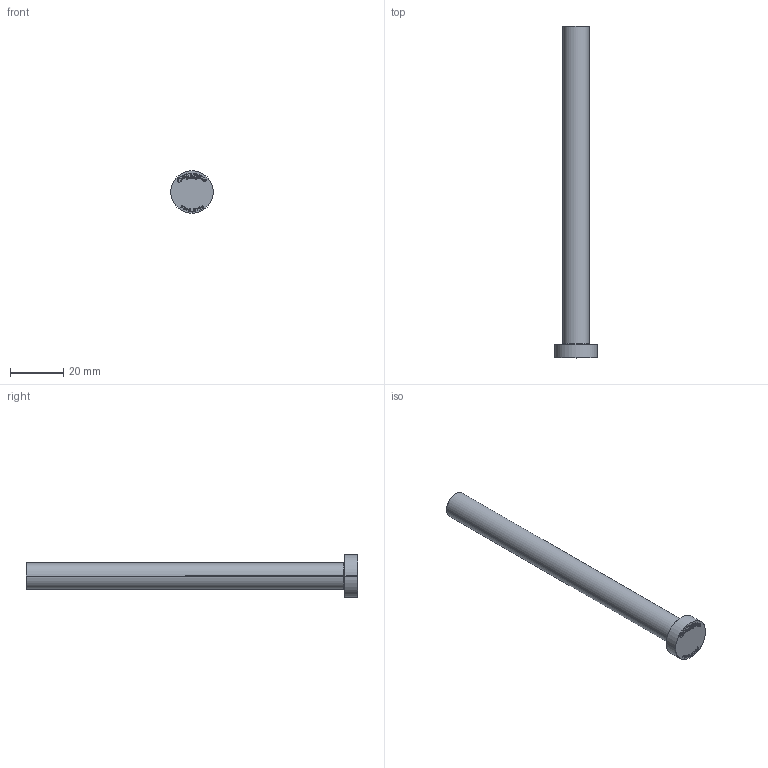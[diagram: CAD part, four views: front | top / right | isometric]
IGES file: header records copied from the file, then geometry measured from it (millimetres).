
Start section: SolidWorks IGES file using analytic representation for surfaces
Global section: file name: C:\Users\User\Downloads\Matripeça 31-08 tar\PB - PINO EXTRATOR TIPO _B_ (CATÁLOGO)\PB10,0\PB10,0125.IGS; native system: SolidWorks 2024; preprocessor: SolidWorks 2024; author: User; date: 260901.150155; units: millimetre
Bounding box: 16 x 125 x 16 mm (x, y, z)
Surface area: 4429.1 mm2 (no closed solid volume)
Topology: 0 solids, 0 shells, 394 faces, 3823 edges, 3823 vertices
Faces by surface type: bspline 380, revolution 14
